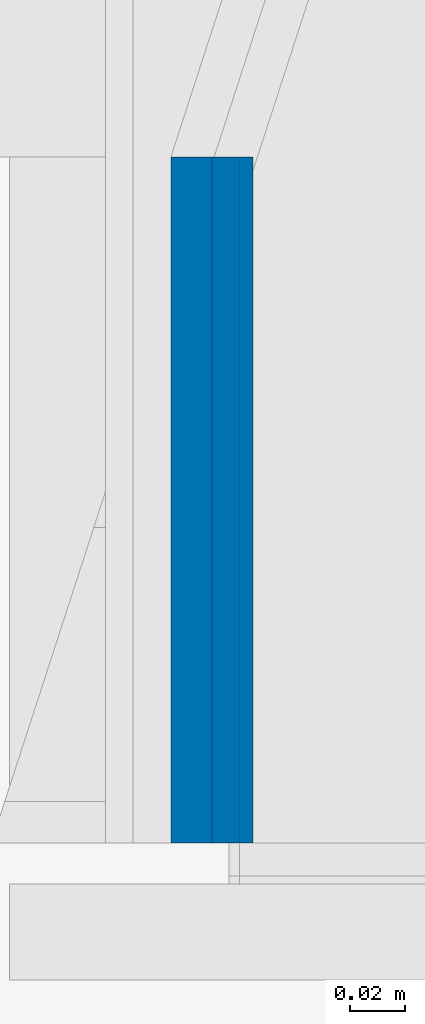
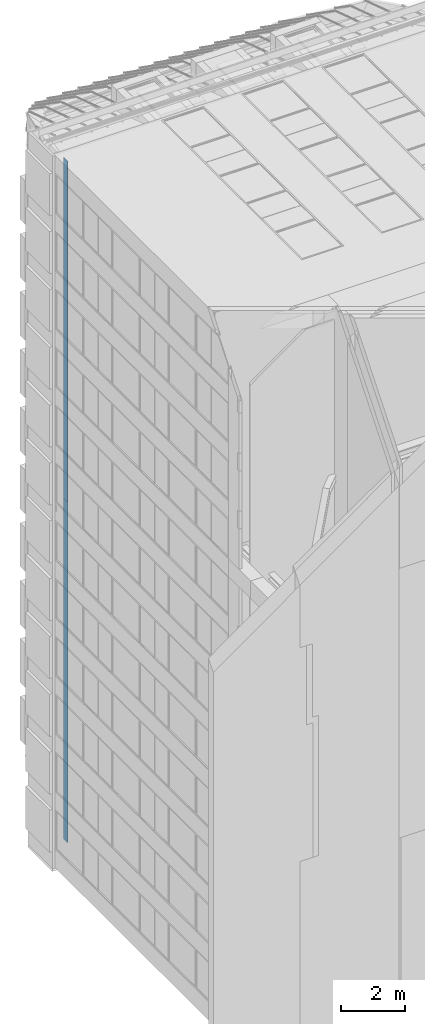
# One storey, part 21 of 583: 3 walls.
"""IFC2X3 building model written with IfcOpenShell, lengths in metres."""

from ifc_helpers import new_model, entity, si_unit, converted_unit, derived_unit, money_unit, direction, frame, frame_2d, origin_with_axes, place, context, subcontext, project, spatial, polyline, rectangle, outline, extrude, material, type_object, element, save


model = new_model("IFC2X3")

# Units and contexts
model_context = context("Model", 3, precision=1e-05, world=origin_with_axes(), true_north=direction((0.0, 1.0)))
body_context = subcontext(model_context, "Body", "Model", "MODEL_VIEW", scale=1.0)
ifc_project = project(units=[si_unit("LENGTHUNIT", "METRE"), si_unit("AREAUNIT", "SQUARE_METRE"), si_unit("VOLUMEUNIT", "CUBIC_METRE"), si_unit("ABSORBEDDOSEUNIT", "GRAY"), si_unit("AMOUNTOFSUBSTANCEUNIT", "MOLE"), si_unit("DOSEEQUIVALENTUNIT", "SIEVERT"), si_unit("ELECTRICCAPACITANCEUNIT", "FARAD"), si_unit("ELECTRICCHARGEUNIT", "COULOMB"), si_unit("ELECTRICCONDUCTANCEUNIT", "SIEMENS"), si_unit("ELECTRICCURRENTUNIT", "AMPERE"), si_unit("ELECTRICRESISTANCEUNIT", "OHM"), si_unit("ELECTRICVOLTAGEUNIT", "VOLT"), si_unit("ENERGYUNIT", "JOULE"), si_unit("FORCEUNIT", "NEWTON"), si_unit("FREQUENCYUNIT", "HERTZ"), si_unit("ILLUMINANCEUNIT", "LUX"), si_unit("INDUCTANCEUNIT", "HENRY"), si_unit("LUMINOUSFLUXUNIT", "LUMEN"), si_unit("LUMINOUSINTENSITYUNIT", "CANDELA"), si_unit("MAGNETICFLUXDENSITYUNIT", "TESLA"), si_unit("MAGNETICFLUXUNIT", "WEBER"), si_unit("MASSUNIT", "GRAM"), converted_unit("PLANEANGLEUNIT", "degree", entity("IfcReal", 0.0174532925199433), si_unit("PLANEANGLEUNIT", "RADIAN"), dimensions=[0, 0, 0, 0, 0, 0, 0]), si_unit("POWERUNIT", "WATT"), si_unit("PRESSUREUNIT", "PASCAL"), si_unit("RADIOACTIVITYUNIT", "BECQUEREL"), si_unit("SOLIDANGLEUNIT", "STERADIAN"), si_unit("THERMODYNAMICTEMPERATUREUNIT", "KELVIN"), si_unit("TIMEUNIT", "SECOND"), derived_unit("ACCELERATIONUNIT", [(si_unit("LENGTHUNIT", "METRE"), 1), (si_unit("TIMEUNIT", "SECOND"), -2)]), derived_unit("ANGULARVELOCITYUNIT", [(converted_unit("PLANEANGLEUNIT", "degree", entity("IfcReal", 0.0174532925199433), si_unit("PLANEANGLEUNIT", "RADIAN"), dimensions=[0, 0, 0, 0, 0, 0, 0]), 1), (si_unit("TIMEUNIT", "SECOND"), -1)]), derived_unit("CURVATUREUNIT", [(converted_unit("PLANEANGLEUNIT", "degree", entity("IfcReal", 0.0174532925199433), si_unit("PLANEANGLEUNIT", "RADIAN"), dimensions=[0, 0, 0, 0, 0, 0, 0]), 1), (si_unit("LENGTHUNIT", "METRE"), -1)]), derived_unit("DYNAMICVISCOSITYUNIT", [(si_unit("PRESSUREUNIT", "PASCAL"), 1), (si_unit("TIMEUNIT", "SECOND"), 1)]), derived_unit("HEATFLUXDENSITYUNIT", [(si_unit("POWERUNIT", "WATT"), 1), (si_unit("LENGTHUNIT", "METRE"), -2)]), derived_unit("HEATINGVALUEUNIT", [(si_unit("ENERGYUNIT", "JOULE"), 1), (si_unit("MASSUNIT", "GRAM"), -1)]), derived_unit("INTEGERCOUNTRATEUNIT", [(si_unit("TIMEUNIT", "SECOND"), -1)]), derived_unit("IONCONCENTRATIONUNIT", [(si_unit("MASSUNIT", "GRAM"), 1), (si_unit("VOLUMEUNIT", "CUBIC_METRE"), -1)]), derived_unit("ISOTHERMALMOISTURECAPACITYUNIT", [(si_unit("VOLUMEUNIT", "CUBIC_METRE"), 1), (si_unit("MASSUNIT", "GRAM"), -1)]), derived_unit("KINEMATICVISCOSITYUNIT", [(si_unit("AREAUNIT", "SQUARE_METRE"), 1), (si_unit("TIMEUNIT", "SECOND"), -1)]), derived_unit("LINEARFORCEUNIT", [(si_unit("FORCEUNIT", "NEWTON"), 1), (si_unit("LENGTHUNIT", "METRE"), -1)]), derived_unit("LINEARMOMENTUNIT", [(si_unit("FORCEUNIT", "NEWTON"), 1), (si_unit("LENGTHUNIT", "METRE"), -1)]), derived_unit("LINEARSTIFFNESSUNIT", [(si_unit("FORCEUNIT", "NEWTON"), 1), (si_unit("LENGTHUNIT", "METRE"), -1)]), derived_unit("LINEARVELOCITYUNIT", [(si_unit("LENGTHUNIT", "METRE"), 1), (si_unit("TIMEUNIT", "SECOND"), -1)]), derived_unit("LUMINOUSINTENSITYDISTRIBUTIONUNIT", [(si_unit("LUMINOUSINTENSITYUNIT", "CANDELA"), 1), (si_unit("LUMINOUSFLUXUNIT", "LUMEN"), -1)]), derived_unit("MASSDENSITYUNIT", [(si_unit("MASSUNIT", "GRAM"), 1), (si_unit("VOLUMEUNIT", "CUBIC_METRE"), -1)]), derived_unit("MASSFLOWRATEUNIT", [(si_unit("MASSUNIT", "GRAM"), 1), (si_unit("TIMEUNIT", "SECOND"), -1)]), derived_unit("MASSPERLENGTHUNIT", [(si_unit("MASSUNIT", "GRAM"), 1), (si_unit("LENGTHUNIT", "METRE"), -1)]), derived_unit("MODULUSOFELASTICITYUNIT", [(si_unit("FORCEUNIT", "NEWTON"), 1), (si_unit("AREAUNIT", "SQUARE_METRE"), -1)]), derived_unit("MODULUSOFLINEARSUBGRADEREACTIONUNIT", [(si_unit("FORCEUNIT", "NEWTON"), 1), (si_unit("LENGTHUNIT", "METRE"), -2)]), derived_unit("MODULUSOFROTATIONALSUBGRADEREACTIONUNIT", [(si_unit("FORCEUNIT", "NEWTON"), 1), (si_unit("LENGTHUNIT", "METRE"), 1)]), derived_unit("MODULUSOFSUBGRADEREACTIONUNIT", [(si_unit("FORCEUNIT", "NEWTON"), 1), (si_unit("VOLUMEUNIT", "CUBIC_METRE"), -1)]), derived_unit("MOISTUREDIFFUSIVITYUNIT", [(si_unit("VOLUMEUNIT", "CUBIC_METRE"), 1), (si_unit("TIMEUNIT", "SECOND"), -1)]), derived_unit("MOLECULARWEIGHTUNIT", [(si_unit("MASSUNIT", "GRAM"), 1), (si_unit("AMOUNTOFSUBSTANCEUNIT", "MOLE"), -1)]), derived_unit("PLANARFORCEUNIT", [(si_unit("FORCEUNIT", "NEWTON"), 1), (si_unit("LENGTHUNIT", "METRE"), -2)]), derived_unit("ROTATIONALFREQUENCYUNIT", [(si_unit("TIMEUNIT", "SECOND"), -1)]), derived_unit("ROTATIONALMASSUNIT", [(si_unit("MASSUNIT", "GRAM"), 1), (si_unit("LENGTHUNIT", "METRE"), 2)]), derived_unit("ROTATIONALSTIFFNESSUNIT", [(si_unit("FORCEUNIT", "NEWTON"), 1), (si_unit("LENGTHUNIT", "METRE"), 1), (converted_unit("PLANEANGLEUNIT", "degree", entity("IfcReal", 0.0174532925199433), si_unit("PLANEANGLEUNIT", "RADIAN"), dimensions=[0, 0, 0, 0, 0, 0, 0]), -1)]), derived_unit("SECTIONAREAINTEGRALUNIT", [(si_unit("LENGTHUNIT", "METRE"), 5)]), derived_unit("SECTIONMODULUSUNIT", [(si_unit("LENGTHUNIT", "METRE"), 3)]), derived_unit("SHEARMODULUSUNIT", [(si_unit("FORCEUNIT", "NEWTON"), 1), (si_unit("AREAUNIT", "SQUARE_METRE"), -1)]), derived_unit("SOUNDPOWERUNIT", [(si_unit("ENERGYUNIT", "JOULE"), 1), (si_unit("TIMEUNIT", "SECOND"), -1)]), derived_unit("SPECIFICHEATCAPACITYUNIT", [(si_unit("FORCEUNIT", "NEWTON"), 1), (si_unit("MASSUNIT", "GRAM"), -1), (si_unit("THERMODYNAMICTEMPERATUREUNIT", "KELVIN"), -1)]), derived_unit("TEMPERATUREGRADIENTUNIT", [(si_unit("THERMODYNAMICTEMPERATUREUNIT", "KELVIN"), 1), (si_unit("LENGTHUNIT", "METRE"), -1)]), derived_unit("THERMALADMITTANCEUNIT", [(si_unit("POWERUNIT", "WATT"), 1), (si_unit("AREAUNIT", "SQUARE_METRE"), -1), (si_unit("THERMODYNAMICTEMPERATUREUNIT", "KELVIN"), -1)]), derived_unit("THERMALCONDUCTANCEUNIT", [(si_unit("POWERUNIT", "WATT"), 1), (si_unit("LENGTHUNIT", "METRE"), -1), (si_unit("THERMODYNAMICTEMPERATUREUNIT", "KELVIN"), -1)]), derived_unit("THERMALEXPANSIONCOEFFICIENTUNIT", [(si_unit("THERMODYNAMICTEMPERATUREUNIT", "KELVIN"), -1)]), derived_unit("THERMALRESISTANCEUNIT", [(si_unit("AREAUNIT", "SQUARE_METRE"), 1), (si_unit("POWERUNIT", "WATT"), -1)]), derived_unit("THERMALTRANSMITTANCEUNIT", [(si_unit("POWERUNIT", "WATT"), 1), (si_unit("AREAUNIT", "SQUARE_METRE"), -1), (si_unit("THERMODYNAMICTEMPERATUREUNIT", "KELVIN"), -1)]), derived_unit("TORQUEUNIT", [(si_unit("FORCEUNIT", "NEWTON"), 1), (si_unit("LENGTHUNIT", "METRE"), 1)]), derived_unit("VAPORPERMEABILITYUNIT", [(si_unit("MASSUNIT", "GRAM"), 1), (si_unit("TIMEUNIT", "SECOND"), -1)]), derived_unit("VOLUMETRICFLOWRATEUNIT", [(si_unit("VOLUMEUNIT", "CUBIC_METRE"), 1), (si_unit("TIMEUNIT", "SECOND"), -1)]), derived_unit("WARPINGCONSTANTUNIT", [(si_unit("LENGTHUNIT", "METRE"), 6)]), derived_unit("WARPINGMOMENTUNIT", [(si_unit("FORCEUNIT", "NEWTON"), 1), (si_unit("LENGTHUNIT", "METRE"), 2)]), money_unit("GBP")], contexts=[model_context])

# Site, building, storey
site_placement = place(None, origin_with_axes())
site = spatial("IfcSite", under=ifc_project, at=site_placement, Name="Site", CompositionType="ELEMENT")
building_placement = place(site_placement, origin_with_axes())
building = spatial("IfcBuilding", under=site, at=building_placement, Name="Building01", CompositionType="ELEMENT")
storey_placement = place(building_placement, frame((0.0, 0.0, 20.78), z_axis=(0.0, 0.0, 1.0), x_axis=(1.0, 0.0, 0.0)))
storey = spatial("IfcBuildingStorey", under=building, at=storey_placement, Name="RL", CompositionType="ELEMENT", Elevation=20.78)

# Walls
ifc_material = material(Name="A_BSUK_WallsInternal")
wall_type = type_object("IfcWallType", Name="A-Walls-Internal", PredefinedType="NOTDEFINED")
wall_1_placement = place(storey_placement, frame((0.5788, 14.98, 5.6212), z_axis=(0.0, 1.0, 0.0), x_axis=(0.0, 0.0, -1.0)))
element("IfcWall", 1, at=wall_1_placement, inside=storey, type_object=wall_type, material=ifc_material, Name="7C", ObjectType="A-Walls-Internal", context=body_context, shape_type="SweptSolid", body=[
    extrude(outline(polyline([(0.0, 0.0), (0.025, -0.025), (12.9112, -0.025), (12.9112, 0.0), (0.0, 0.0)])), origin_with_axes(), (0.0, 0.0, 1.0), 0.25),
])
wall_2_placement = place(storey_placement, frame((0.5788, 14.98, -20.1862), z_axis=(0.0, 1.0, 0.0), x_axis=(0.0, 0.0, 1.0)))
element("IfcWall", 2, at=wall_2_placement, inside=storey, type_object=wall_type, material=ifc_material, Name="7C", ObjectType="A-Walls-Internal", context=body_context, shape_type="SweptSolid", body=[
    extrude(rectangle(XDim=25.8074, YDim=0.015, at=frame_2d((12.9037, 0.0075), x_axis=(-1.0, 0.0))), origin_with_axes(), (0.0, 0.0, 1.0), 0.25),
])
wall_3_placement = place(storey_placement, frame((0.5938, 14.98, -20.1712), z_axis=(0.0, 1.0, 0.0), x_axis=(0.0, 0.0, 1.0)))
element("IfcWall", 3, at=wall_3_placement, inside=storey, type_object=wall_type, material=ifc_material, Name="7C", ObjectType="A-Walls-Internal", context=body_context, shape_type="SweptSolid", body=[
    extrude(rectangle(XDim=25.7774, YDim=0.015, at=frame_2d((12.8887, 0.0075), x_axis=(-1.0, 0.0))), origin_with_axes(), (0.0, 0.0, 1.0), 0.25),
])

save(model, "model.ifc")
